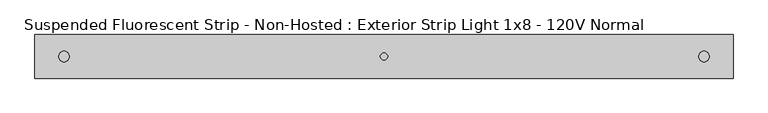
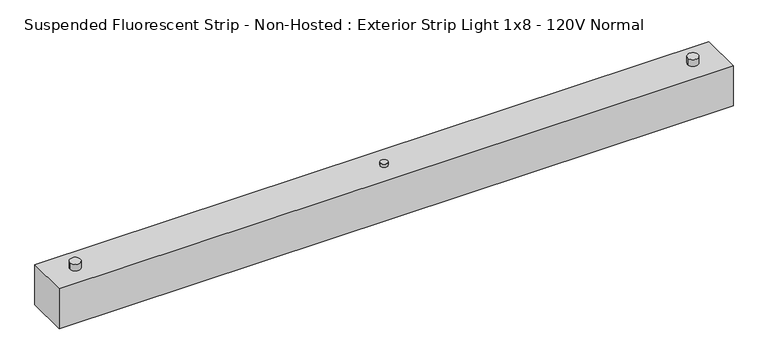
"""IFC4 building model written with IfcOpenShell, lengths in millimetres: light fixture geometry, Suspended Fluorescent Strip - Non-Hosted : Exterior Strip Light 1x8 - 120V Normal."""

import ifcopenshell
import ifcopenshell.guid

model = None  # the IFC model being written
_history = None  # IfcOwnerHistory: only IFC2X3 demands one
_inside = {}  # id of a spatial element -> (the spatial element, [elements in it])
_under = {}  # id of a project, library or spatial element -> (it, [spatial elements below it])
_declared = {}  # id of a project -> (the project, [libraries it declares])
_typed = {}  # id of a type object -> (the type object, [elements of that type])
_made_of = {}  # id of a material, layer set ... -> (it, [elements and type objects made of it])


def new_model(schema):
    """Start an empty IFC model of exactly this schema.

    Asked for "IFC4X3", IfcOpenShell would pick the latest addendum, in which some entities
    have other attributes; the version numbers below select the first issue.
    IFC2X3 requires an IfcOwnerHistory on every rooted entity: one is made here for all.
    """
    global model, _history
    if schema == "IFC4X3":
        model = ifcopenshell.file(schema_version=(4, 3, 0, 0))
    else:
        model = ifcopenshell.file(schema=schema)
    _inside.clear()
    _under.clear()
    _declared.clear()
    _typed.clear()
    _made_of.clear()
    _history = None
    if model.schema == "IFC2X3":
        org = make("IfcOrganization", Name="unknown")
        user = make(
            "IfcPersonAndOrganization",
            ThePerson=make("IfcPerson", FamilyName="unknown"),
            TheOrganization=org,
        )
        app = make(
            "IfcApplication",
            ApplicationDeveloper=org,
            Version="unknown",
            ApplicationFullName="unknown",
            ApplicationIdentifier="unknown",
        )
        _history = make(
            "IfcOwnerHistory",
            OwningUser=user,
            OwningApplication=app,
            ChangeAction="ADDED",
            CreationDate=0,
        )
    return model


def make(cls, **values):
    """One entity of the class cls with the attributes given. An attribute that is None is left unset."""
    return model.create_entity(
        cls, **{name: value for name, value in values.items() if value is not None}
    )


def rooted(cls, **values):
    """An entity with a GlobalId (a new one), such as an element, a storey or a relation."""
    return make(cls, GlobalId=ifcopenshell.guid.new(), OwnerHistory=_history, **values)


def si_unit(unit_type, name, prefix=None):
    """IfcSIUnit, for example si_unit("LENGTHUNIT", "METRE", prefix="MILLI")."""
    return make("IfcSIUnit", UnitType=unit_type, Prefix=prefix, Name=name)


def assignment(units):
    """IfcUnitAssignment: the units of a project."""
    return None if units is None else make("IfcUnitAssignment", Units=units)


def point(xyz):
    """IfcCartesianPoint."""
    return None if xyz is None else make("IfcCartesianPoint", Coordinates=xyz)


def direction(xyz):
    """IfcDirection."""
    return None if xyz is None else make("IfcDirection", DirectionRatios=xyz)


def frame(location, z_axis=None, x_axis=None):
    """IfcAxis2Placement3D, a coordinate frame: its origin and axes. An axis left out is left unset."""
    return make(
        "IfcAxis2Placement3D",
        Location=point(location),
        Axis=direction(z_axis),
        RefDirection=direction(x_axis),
    )


def frame_2d(location, x_axis=None):
    """IfcAxis2Placement2D, a coordinate frame in the plane: its origin and x axis."""
    return make(
        "IfcAxis2Placement2D", Location=point(location), RefDirection=direction(x_axis)
    )


def origin():
    """The frame at (0, 0, 0) with its axes left unset."""
    return frame((0.0, 0.0, 0.0))


def origin_with_axes():
    """The frame at (0, 0, 0) with the z axis (0, 0, 1) and the x axis (1, 0, 0) written out."""
    return frame((0.0, 0.0, 0.0), z_axis=(0.0, 0.0, 1.0), x_axis=(1.0, 0.0, 0.0))


def origin_2d():
    """The frame at (0, 0) in the plane with its x axis left unset."""
    return frame_2d((0.0, 0.0))


def place(relative_to, where):
    """IfcLocalPlacement: puts the frame where relative to a parent placement (None: the world)."""
    return make(
        "IfcLocalPlacement", PlacementRelTo=relative_to, RelativePlacement=where
    )


def context(
    kind, dimensions, precision=None, world=None, true_north=None, identifier=None
):
    """IfcGeometricRepresentationContext, for example the 3D "Model" context."""
    return make(
        "IfcGeometricRepresentationContext",
        ContextIdentifier=identifier,
        ContextType=kind,
        CoordinateSpaceDimension=dimensions,
        Precision=precision,
        WorldCoordinateSystem=world,
        TrueNorth=true_north,
    )


def project(units=None, contexts=None):
    """IfcProject with its units and contexts."""
    return rooted(
        "IfcProject",
        Name="project",
        RepresentationContexts=contexts,
        UnitsInContext=assignment(units),
    )


def spatial(cls, under=None, at=None, **own):
    """A site, building, storey or space (cls), placed at a placement, below another one or the project."""
    s = rooted(cls, ObjectPlacement=at, **own)
    if under is not None:
        _under.setdefault(under.id(), (under, []))[1].append(s)
    return s


def polyline(points):
    """IfcPolyline through the points."""
    return make("IfcPolyline", Points=[point(p) for p in points])


def circle_curve(where, radius):
    """IfcCircle in the frame where."""
    return make("IfcCircle", Position=where, Radius=radius)


def trimmed(basis, trim1, trim2, sense, master):
    """IfcTrimmedCurve: the piece of a basis curve between two trims."""
    return make(
        "IfcTrimmedCurve",
        BasisCurve=basis,
        Trim1=trim1,
        Trim2=trim2,
        SenseAgreement=sense,
        MasterRepresentation=master,
    )


def segment(curve, same_sense, transition):
    """IfcCompositeCurveSegment."""
    return make(
        "IfcCompositeCurveSegment",
        Transition=transition,
        SameSense=same_sense,
        ParentCurve=curve,
    )


def composite_curve(segments, self_intersect=None):
    """IfcCompositeCurve: segments joined end to end."""
    return make("IfcCompositeCurve", Segments=segments, SelfIntersect=self_intersect)


def outline(outer, holes=None, kind="AREA"):
    """IfcArbitraryClosedProfileDef: a profile drawn as a closed curve; with holes, ...WithVoids."""
    if holes is None:
        return make("IfcArbitraryClosedProfileDef", ProfileType=kind, OuterCurve=outer)
    return make(
        "IfcArbitraryProfileDefWithVoids",
        ProfileType=kind,
        OuterCurve=outer,
        InnerCurves=holes,
    )


def extrude(swept, where, along, depth):
    """IfcExtrudedAreaSolid: the profile swept, set in the frame where, extruded along a direction by depth."""
    return make(
        "IfcExtrudedAreaSolid",
        SweptArea=swept,
        Position=where,
        ExtrudedDirection=direction(along),
        Depth=depth,
    )


def shape(context_of_items, identifier, shape_type, items):
    """IfcShapeRepresentation: the items that make up one representation, for example the "Body"."""
    return make(
        "IfcShapeRepresentation",
        ContextOfItems=context_of_items,
        RepresentationIdentifier=identifier,
        RepresentationType=shape_type,
        Items=items,
    )


def source(mapping_origin, context_of_items, identifier, shape_type, items):
    """IfcRepresentationMap: a shape defined once, which mapped items show again and again."""
    return make(
        "IfcRepresentationMap",
        MappingOrigin=mapping_origin,
        MappedRepresentation=shape(context_of_items, identifier, shape_type, items),
    )


def transform(
    local_origin,
    x_axis=None,
    y_axis=None,
    z_axis=None,
    scale=None,
    scale2=None,
    scale3=None,
    uniform=True,
):
    """IfcCartesianTransformationOperator3D, or its non-uniform kind. x_axis, y_axis, z_axis: its Axis1, 2, 3."""
    if uniform:
        return make(
            "IfcCartesianTransformationOperator3D",
            Axis1=direction(x_axis),
            Axis2=direction(y_axis),
            LocalOrigin=point(local_origin),
            Scale=scale,
            Axis3=direction(z_axis),
        )
    return make(
        "IfcCartesianTransformationOperator3DnonUniform",
        Axis1=direction(x_axis),
        Axis2=direction(y_axis),
        LocalOrigin=point(local_origin),
        Scale=scale,
        Axis3=direction(z_axis),
        Scale2=scale2,
        Scale3=scale3,
    )


def mapped(mapping_source, mapping_target):
    """IfcMappedItem: shows the shape of a source again, moved by a transform."""
    return make(
        "IfcMappedItem", MappingSource=mapping_source, MappingTarget=mapping_target
    )


def made_of(thing, what):
    """Note that an element or type object is made of a material, layer set ...; save() writes the relation."""
    if what is not None:
        _made_of.setdefault(what.id(), (what, []))[1].append(thing)
    return thing


def element(
    cls,
    number,
    at=None,
    inside=None,
    cuts=None,
    type_object=None,
    material=None,
    context=None,
    identifier="Body",
    shape_type=None,
    held_by="IfcProductDefinitionShape",
    body=None,
    shapes=None,
    **own,
):
    """One element of the class cls, such as IfcWall. Its Tag is "e" and its number.

    at: its placement. inside: the storey or other place that contains it. cuts: it is an
    opening in that element (IfcRelVoidsElement). A single representation is given by context,
    identifier, shape_type and body (its items); several are given by shapes. held_by: the class
    of the entity that holds the representations. save() writes the other relations.
    """
    e = rooted(cls, Tag="e%d" % number, ObjectPlacement=at, **own)
    if body is not None:
        shapes = [shape(context, identifier, shape_type, body)]
    if shapes is not None:
        e.Representation = make(held_by, Representations=shapes)
    if inside is not None:
        _inside.setdefault(inside.id(), (inside, []))[1].append(e)
    if cuts is not None:
        rooted(
            "IfcRelVoidsElement", RelatingBuildingElement=cuts, RelatedOpeningElement=e
        )
    if type_object is not None:
        _typed.setdefault(type_object.id(), (type_object, []))[1].append(e)
    return made_of(e, material)


def aggregate(whole, parts):
    """IfcRelAggregates: a whole, such as a stair, and the parts it consists of."""
    return rooted("IfcRelAggregates", RelatingObject=whole, RelatedObjects=parts)


def save(model, path):
    """Write the relations noted so far, then the file.

    IfcRelAggregates (storeys below a building ...), IfcRelContainedInSpatialStructure (elements
    in a storey), IfcRelDefinesByType, IfcRelAssociatesMaterial and IfcRelDeclares: one each for
    every whole, place, type object, material and project.
    """
    for whole, parts in _under.values():
        aggregate(whole, parts)
    for where, things in _inside.values():
        rooted(
            "IfcRelContainedInSpatialStructure",
            RelatedElements=things,
            RelatingStructure=where,
        )
    for kind, things in _typed.values():
        rooted("IfcRelDefinesByType", RelatedObjects=things, RelatingType=kind)
    for what, things in _made_of.values():
        rooted("IfcRelAssociatesMaterial", RelatedObjects=things, RelatingMaterial=what)
    for by, libraries in _declared.values():
        rooted("IfcRelDeclares", RelatingContext=by, RelatedDefinitions=libraries)
    model.write(path)


def suspended_fluorescent_strip_non_hosted_exterior_strip_light_cd59f7f1(model_context):
    return source(origin(), model_context, "Body", "SweptSolid", [
        extrude(outline(composite_curve([segment(trimmed(circle_curve(frame_2d((1117.6, 0.0)), 19.05), [point((1136.65, 0.0))], [point((1098.55, 0.0))], False, "CARTESIAN"), True, "CONTINUOUS"), segment(trimmed(circle_curve(frame_2d((1117.6, 0.0)), 19.05), [point((1098.55, 0.0))], [point((1136.65, 0.0))], False, "CARTESIAN"), True, "CONTINUOUS")], self_intersect=False)), frame((0.0, 0.0, 152.4), z_axis=(0.0, 0.0, 1.0), x_axis=(1.0, 0.0, 0.0)), (0.0, 0.0, 1.0), 25.4),
        extrude(outline(composite_curve([segment(trimmed(circle_curve(frame_2d((-1117.6, 0.0)), 19.05), [point((-1098.55, 0.0))], [point((-1136.65, 0.0))], False, "CARTESIAN"), True, "CONTINUOUS"), segment(trimmed(circle_curve(frame_2d((-1117.6, 0.0)), 19.05), [point((-1136.65, 0.0))], [point((-1098.55, 0.0))], False, "CARTESIAN"), True, "CONTINUOUS")], self_intersect=False)), frame((0.0, 0.0, 152.4), z_axis=(0.0, 0.0, 1.0), x_axis=(1.0, 0.0, 0.0)), (0.0, 0.0, 1.0), 25.4),
        extrude(outline(composite_curve([segment(trimmed(circle_curve(origin_2d(), 12.7), [point((-12.7, 0.0))], [point((12.7, 0.0))], False, "CARTESIAN"), True, "CONTINUOUS"), segment(trimmed(circle_curve(origin_2d(), 12.7), [point((12.7, 0.0))], [point((-12.7, 0.0))], False, "CARTESIAN"), True, "CONTINUOUS")], self_intersect=False)), frame((0.0, 0.0, 152.4), z_axis=(0.0, 0.0, 1.0), x_axis=(1.0, 0.0, 0.0)), (0.0, 0.0, 1.0), 12.7),
        extrude(outline(polyline([(1219.2, -76.2), (-1219.2, -76.2), (-1219.2, 76.2), (1219.2, 76.2), (1219.2, -76.2)])), origin_with_axes(), (0.0, 0.0, 1.0), 152.4),
    ])


if __name__ == "__main__":
    model = new_model("IFC4")
    model_context = context("Model", 3, world=origin())
    ifc_project = project(units=[si_unit("LENGTHUNIT", "METRE", prefix="MILLI")], contexts=[model_context])
    site = spatial("IfcSite", under=ifc_project)
    building = spatial("IfcBuilding", under=site)
    placement = place(None, origin())
    suspended_fluorescent_strip_non_hosted_exterior_strip_light_shape = suspended_fluorescent_strip_non_hosted_exterior_strip_light_cd59f7f1(model_context)
    element("IfcLightFixture", 1, ObjectType="Suspended Fluorescent Strip - Non-Hosted : Exterior Strip Light 1x8 - 120V Normal", at=placement, inside=building, context=model_context, shape_type="MappedRepresentation", body=[
        mapped(suspended_fluorescent_strip_non_hosted_exterior_strip_light_shape, transform((0.0, 0.0, 0.0), x_axis=(1.0, 0.0, 0.0), y_axis=(0.0, 1.0, 0.0), z_axis=(0.0, 0.0, 1.0))),
    ])
    save(model, "model.ifc")
